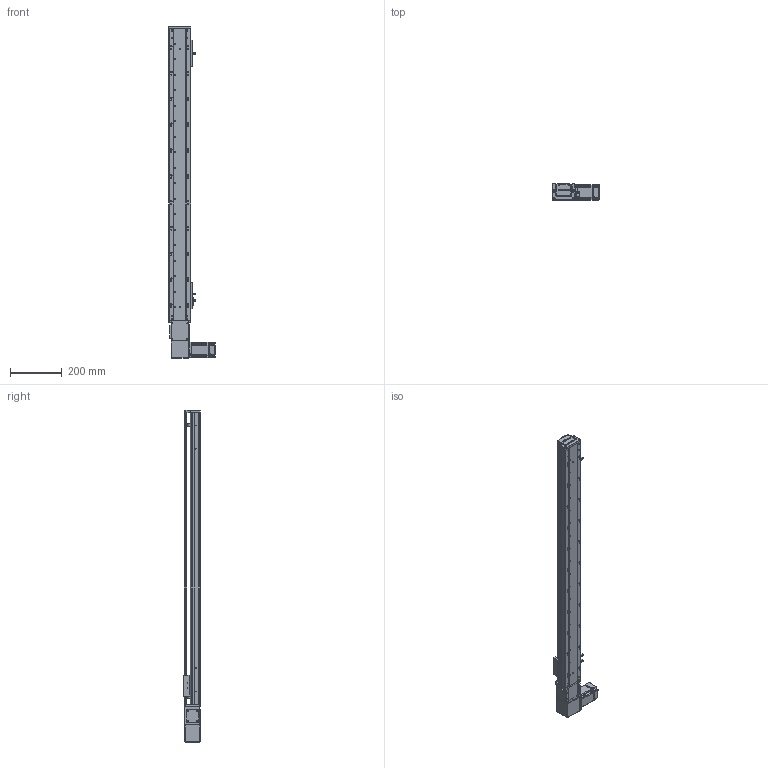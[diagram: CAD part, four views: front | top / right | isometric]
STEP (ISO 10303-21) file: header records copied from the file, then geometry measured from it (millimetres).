
FILE_DESCRIPTION (( 'STEP AP203' ), '1' );
FILE_NAME ('RY80-T-300-RK.SLDASM_950.step', '2021-03-01T02:07:16', ( '盈信电脑' ), ( '东莞市道滘镇水果街19号' ), 'SwSTEP 2.0', 'SolidWorks 2012', '' );
FILE_SCHEMA (( 'CONFIG_CONTROL_DESIGN' ));
Length unit declared in the file: millimetre
Products named in the file (20): RY80-T肮祭謫俋欶; 滅袉蝶18-10; RY80-T-300-RK.SLDASM_950; RY100-T粣創揤踡裔; RY80-T-M4蹟翐; RY80-T翋肮祭謫裔啣; RY80-T粣創揤踡輸; RY80-T肮祭湍揤輸2; RY80-T肮祭湍揤輸1; RY80-T萇儂假蚾啣; RY80-T-翋肮祭謫釱; 侂狟200W萇儂; RY80俋离覜茼え; 覜茼ん672; 1; RY80-T-300-RK倰第奻裔啣_950; RY80-T綴裔啣; RY80-T肮祭謫臏賑輸; 672嫖萇羲壽假蚾釱; RY80-T-300-RK倰第菁釱_950
Assembly tree (25 placements, depth 3):
  RY80-T-300-RK.SLDASM_950
    RY80-T-300-RK倰第菁釱_950
    RY80-T肮祭謫臏賑輸
    RY80-T-300-RK倰第奻裔啣_950
    RY80-T綴裔啣
    672嫖萇羲壽假蚾釱  x2
    覜茼ん672  x3
    RY80俋离覜茼え
    侂狟200W萇儂
      1
    RY80-T-翋肮祭謫釱
    RY80-T萇儂假蚾啣
    RY80-T肮祭湍揤輸1
    RY80-T肮祭湍揤輸2
    RY80-T粣創揤踡輸
    RY80-T-M4蹟翐  x2
    RY80-T翋肮祭謫裔啣  x2
    RY80-T肮祭謫俋欶
    滅袉蝶18-10  x2
    RY100-T粣創揤踡裔
Bounding box: 180 x 65 x 1285 mm (x, y, z)
Volume: 2122093.2 mm3; surface area: 888292.3 mm2
Topology: 24 solids, 24 shells, 2635 faces, 7302 edges, 4747 vertices
Faces by surface type: plane 1364, cylinder 1062, cone 153, bspline 56
Entity records: 84658 total; most frequent: CARTESIAN_POINT 21561, ORIENTED_EDGE 13048, DIRECTION 12094, EDGE_CURVE 6524, VERTEX_POINT 4288, AXIS2_PLACEMENT_3D 4113, VECTOR 3868, LINE 3868
